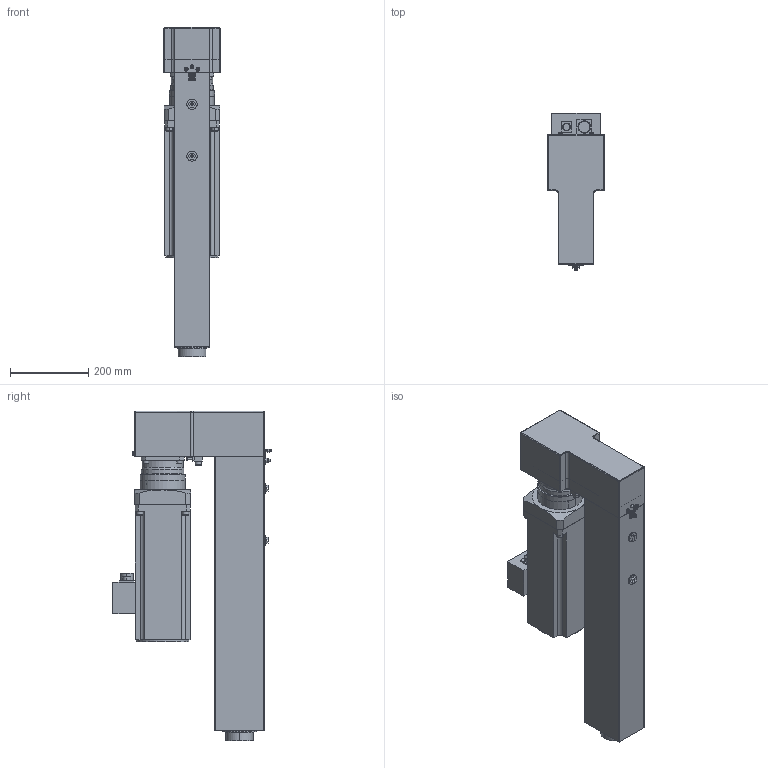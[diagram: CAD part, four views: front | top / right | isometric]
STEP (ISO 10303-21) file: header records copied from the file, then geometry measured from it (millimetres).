
FILE_DESCRIPTION (( 'STEP AP203' ), '1' );
FILE_NAME ('CP5P0500-035-015HXX.STEP', '2016-03-10T13:13:01', ( 'Holtz' ), ( '' ), 'SwSTEP 2.0', 'SolidWorks 2013', '' );
FILE_SCHEMA (( 'CONFIG_CONTROL_DESIGN' ));
Length unit declared in the file: millimetre
Products named in the file (1): CP5P0500-035-015HXX
Bounding box: 143 x 403.5 x 840 mm (x, y, z)
Volume: 12336875.2 mm3; surface area: 1724337.3 mm2
Topology: 39 solids, 47 shells, 1404 faces, 3224 edges, 1972 vertices
Faces by surface type: plane 666, cylinder 488, cone 196, torus 42, bspline 12
Entity records: 40776 total; most frequent: CARTESIAN_POINT 8542, DIRECTION 7046, ORIENTED_EDGE 6268, EDGE_CURVE 3134, AXIS2_PLACEMENT_3D 2657, VERTEX_POINT 1972, VECTOR 1732, LINE 1732
